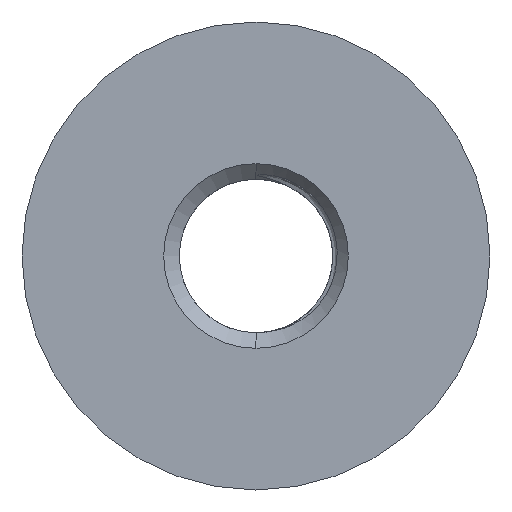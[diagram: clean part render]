
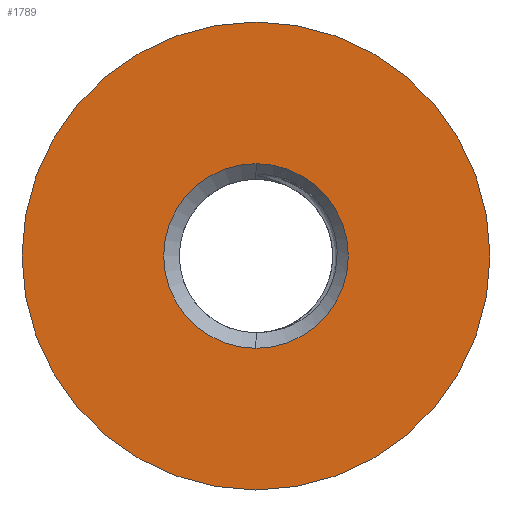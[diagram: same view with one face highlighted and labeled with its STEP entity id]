
A CAD part, left-side view. The second image highlights one B-rep face of the part: STEP entity #1789.
In plain terms, the highlighted planar face has unit normal (-1, 0, 0).
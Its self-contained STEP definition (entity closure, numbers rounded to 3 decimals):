
#72 = CIRCLE ( 'NONE', #99, 7.5 ) ;
#98 = CARTESIAN_POINT ( 'NONE',  ( -5., 0., 0. ) ) ;
#99 = AXIS2_PLACEMENT_3D ( 'NONE', #98, #147, #146 ) ;
#144 = CARTESIAN_POINT ( 'NONE',  ( -5., 0., 7.5 ) ) ;
#146 = DIRECTION ( 'NONE',  ( 0., 0., -1. ) ) ;
#147 = DIRECTION ( 'NONE',  ( 1., 0., 0. ) ) ;
#200 = CARTESIAN_POINT ( 'NONE',  ( -5., 0., -7.5 ) ) ;
#226 = PLANE ( 'NONE',  #251 ) ;
#236 = DIRECTION ( 'NONE',  ( 0., 0., 1. ) ) ;
#237 = DIRECTION ( 'NONE',  ( -1., 0., 0. ) ) ;
#238 = CARTESIAN_POINT ( 'NONE',  ( -5., 5.229, 0. ) ) ;
#251 = AXIS2_PLACEMENT_3D ( 'NONE', #238, #237, #236 ) ;
#254 = FACE_OUTER_BOUND ( 'NONE', #1795, .T. ) ;
#255 = FACE_BOUND ( 'NONE', #1799, .T. ) ;
#256 = CIRCLE ( 'NONE', #264, 2.958 ) ;
#257 = CARTESIAN_POINT ( 'NONE',  ( -5., 0., 0. ) ) ;
#264 = AXIS2_PLACEMENT_3D ( 'NONE', #257, #269, #277 ) ;
#269 = DIRECTION ( 'NONE',  ( 1., 0., 0. ) ) ;
#277 = DIRECTION ( 'NONE',  ( 0., 0., 1. ) ) ;
#364 = DIRECTION ( 'NONE',  ( 0., 0., -1. ) ) ;
#365 = DIRECTION ( 'NONE',  ( 1., 0., 0. ) ) ;
#366 = CARTESIAN_POINT ( 'NONE',  ( -5., 0., 0. ) ) ;
#367 = AXIS2_PLACEMENT_3D ( 'NONE', #366, #365, #364 ) ;
#369 = CIRCLE ( 'NONE', #367, 7.5 ) ;
#1577 = VERTEX_POINT ( 'NONE', #1915 ) ;
#1582 = EDGE_CURVE ( 'NONE', #1577, #1596, #2093, .T. ) ;
#1596 = VERTEX_POINT ( 'NONE', #2070 ) ;
#1741 = EDGE_CURVE ( 'NONE', #1776, #1743, #72, .T. ) ;
#1743 = VERTEX_POINT ( 'NONE', #144 ) ;
#1776 = VERTEX_POINT ( 'NONE', #200 ) ;
#1789 = ADVANCED_FACE ( 'NONE', ( #255, #254 ), #226, .T. ) ;
#1790 = ORIENTED_EDGE ( 'NONE', *, *, #1741, .F. ) ;
#1791 = ORIENTED_EDGE ( 'NONE', *, *, #1869, .F. ) ;
#1794 = ORIENTED_EDGE ( 'NONE', *, *, #1837, .T. ) ;
#1795 = EDGE_LOOP ( 'NONE', ( #1790, #1791 ) ) ;
#1799 = EDGE_LOOP ( 'NONE', ( #1890, #1794 ) ) ;
#1837 = EDGE_CURVE ( 'NONE', #1596, #1577, #256, .T. ) ;
#1869 = EDGE_CURVE ( 'NONE', #1743, #1776, #369, .T. ) ;
#1890 = ORIENTED_EDGE ( 'NONE', *, *, #1582, .T. ) ;
#1915 = CARTESIAN_POINT ( 'NONE',  ( -5., 0., 2.958 ) ) ;
#2070 = CARTESIAN_POINT ( 'NONE',  ( -5., 0., -2.958 ) ) ;
#2076 = AXIS2_PLACEMENT_3D ( 'NONE', #2086, #2085, #2084 ) ;
#2084 = DIRECTION ( 'NONE',  ( 0., 0., 1. ) ) ;
#2085 = DIRECTION ( 'NONE',  ( 1., 0., 0. ) ) ;
#2086 = CARTESIAN_POINT ( 'NONE',  ( -5., 0., 0. ) ) ;
#2093 = CIRCLE ( 'NONE', #2076, 2.958 ) ;
